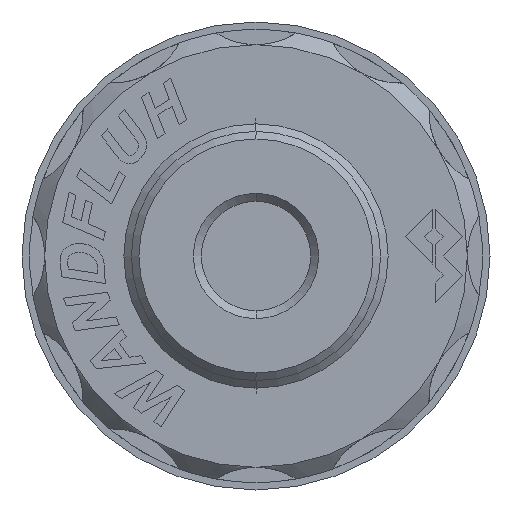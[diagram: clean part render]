
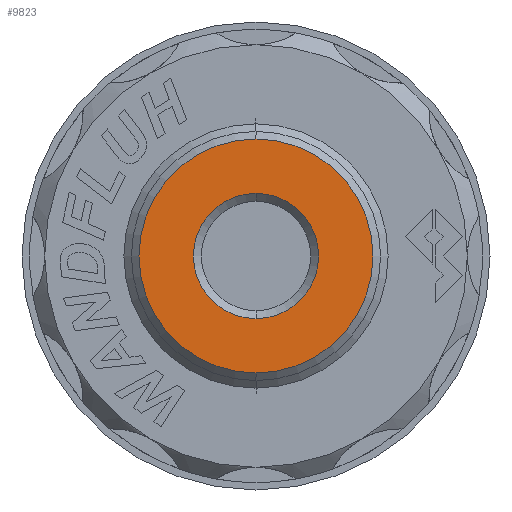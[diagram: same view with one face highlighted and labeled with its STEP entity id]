
A CAD part, left-side view. The second image highlights one B-rep face of the part: STEP entity #9823.
In plain terms, the highlighted planar face has unit normal (-1, 0, 0).
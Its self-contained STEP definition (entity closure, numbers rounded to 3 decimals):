
#166 = EDGE_LOOP ( 'NONE', ( #16469, #9416 ) ) ;
#356 = VERTEX_POINT ( 'NONE', #16283 ) ;
#1268 = DIRECTION ( 'NONE',  ( 0., 0., 1. ) ) ;
#1355 = CIRCLE ( 'NONE', #10199, 7.75 ) ;
#2141 = AXIS2_PLACEMENT_3D ( 'NONE', #21436, #11374, #1268 ) ;
#2154 = CIRCLE ( 'NONE', #2141, 4.15 ) ;
#2572 = CARTESIAN_POINT ( 'NONE',  ( -87.1, 0., 0. ) ) ;
#2807 = DIRECTION ( 'NONE',  ( -1., 0., 0. ) ) ;
#3501 = CARTESIAN_POINT ( 'NONE',  ( -87.1, 0., -7.75 ) ) ;
#3953 = CARTESIAN_POINT ( 'NONE',  ( -87.1, 0., 4.15 ) ) ;
#4168 = CARTESIAN_POINT ( 'NONE',  ( -87.1, 0., -4.15 ) ) ;
#4290 = DIRECTION ( 'NONE',  ( 0., 0., 1. ) ) ;
#5449 = ORIENTED_EDGE ( 'NONE', *, *, #13104, .T. ) ;
#6045 = FACE_BOUND ( 'NONE', #166, .T. ) ;
#6218 = CARTESIAN_POINT ( 'NONE',  ( -87.1, 0., 0. ) ) ;
#6799 = DIRECTION ( 'NONE',  ( -1., 0., 0. ) ) ;
#7890 = DIRECTION ( 'NONE',  ( 0., 0., 1. ) ) ;
#8135 = VERTEX_POINT ( 'NONE', #3501 ) ;
#8473 = EDGE_CURVE ( 'NONE', #8724, #10147, #2154, .T. ) ;
#8724 = VERTEX_POINT ( 'NONE', #4168 ) ;
#8933 = CIRCLE ( 'NONE', #14329, 4.15 ) ;
#9416 = ORIENTED_EDGE ( 'NONE', *, *, #8473, .F. ) ;
#9823 = ADVANCED_FACE ( 'NONE', ( #10482, #6045 ), #21248, .T. ) ;
#10147 = VERTEX_POINT ( 'NONE', #3953 ) ;
#10199 = AXIS2_PLACEMENT_3D ( 'NONE', #2572, #14357, #4290 ) ;
#10482 = FACE_OUTER_BOUND ( 'NONE', #18066, .T. ) ;
#11374 = DIRECTION ( 'NONE',  ( -1., 0., 0. ) ) ;
#11940 = AXIS2_PLACEMENT_3D ( 'NONE', #6218, #17938, #7890 ) ;
#12887 = CARTESIAN_POINT ( 'NONE',  ( -87.1, 0., 0. ) ) ;
#13104 = EDGE_CURVE ( 'NONE', #8135, #356, #1355, .T. ) ;
#13605 = EDGE_CURVE ( 'NONE', #356, #8135, #17124, .T. ) ;
#14329 = AXIS2_PLACEMENT_3D ( 'NONE', #16802, #6799, #18517 ) ;
#14357 = DIRECTION ( 'NONE',  ( -1., 0., 0. ) ) ;
#14588 = DIRECTION ( 'NONE',  ( 0., 0., 1. ) ) ;
#15677 = AXIS2_PLACEMENT_3D ( 'NONE', #12887, #2807, #14588 ) ;
#15842 = EDGE_CURVE ( 'NONE', #10147, #8724, #8933, .T. ) ;
#16283 = CARTESIAN_POINT ( 'NONE',  ( -87.1, 0., 7.75 ) ) ;
#16469 = ORIENTED_EDGE ( 'NONE', *, *, #15842, .F. ) ;
#16802 = CARTESIAN_POINT ( 'NONE',  ( -87.1, 0., 0. ) ) ;
#17124 = CIRCLE ( 'NONE', #15677, 7.75 ) ;
#17938 = DIRECTION ( 'NONE',  ( -1., 0., 0. ) ) ;
#18066 = EDGE_LOOP ( 'NONE', ( #5449, #20346 ) ) ;
#18517 = DIRECTION ( 'NONE',  ( 0., 0., 1. ) ) ;
#20346 = ORIENTED_EDGE ( 'NONE', *, *, #13605, .T. ) ;
#21248 = PLANE ( 'NONE',  #11940 ) ;
#21436 = CARTESIAN_POINT ( 'NONE',  ( -87.1, 0., 0. ) ) ;
